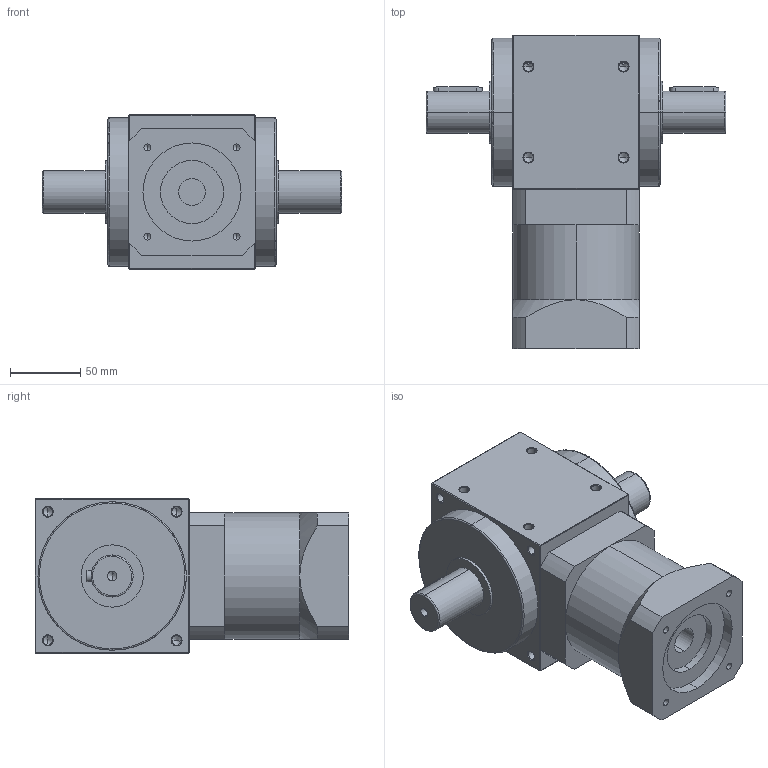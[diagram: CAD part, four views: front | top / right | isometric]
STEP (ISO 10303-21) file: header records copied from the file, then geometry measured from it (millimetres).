
FILE_DESCRIPTION (( 'STEP AP214' ), '1' );
FILE_NAME ('RXW110AS-010-2P --24-110-145-m8.STEP', '2020-11-24T03:36:58', ( '微软用户' ), ( '微软中国' ), 'SwSTEP 2.0', 'SolidWorks 2014', '' );
FILE_SCHEMA (( 'AUTOMOTIVE_DESIGN' ));
Length unit declared in the file: millimetre
Products named in the file (2): RXW110AS-010-2P --24-110-145-m8
Bounding box: 214 x 224 x 110 mm (x, y, z)
Volume: 2167319.1 mm3; surface area: 151195.5 mm2
Topology: 2 solids, 2 shells, 246 faces, 580 edges, 316 vertices
Faces by surface type: cone 96, cylinder 86, plane 56, bspline 8
Entity records: 9086 total; most frequent: CARTESIAN_POINT 1536, DIRECTION 1202, ORIENTED_EDGE 1056, EDGE_CURVE 528, AXIS2_PLACEMENT_3D 470, VERTEX_POINT 316, EDGE_LOOP 284, VECTOR 262
